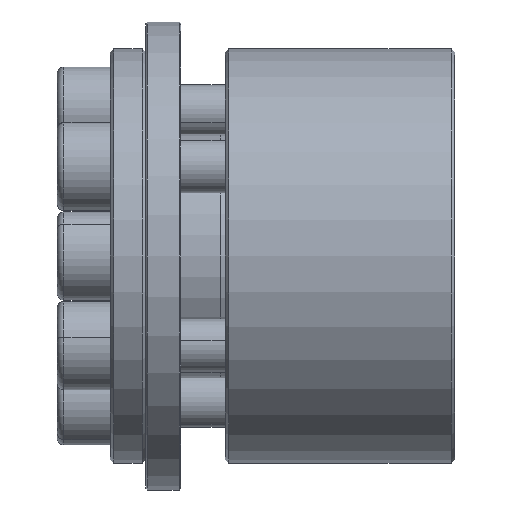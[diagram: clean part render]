
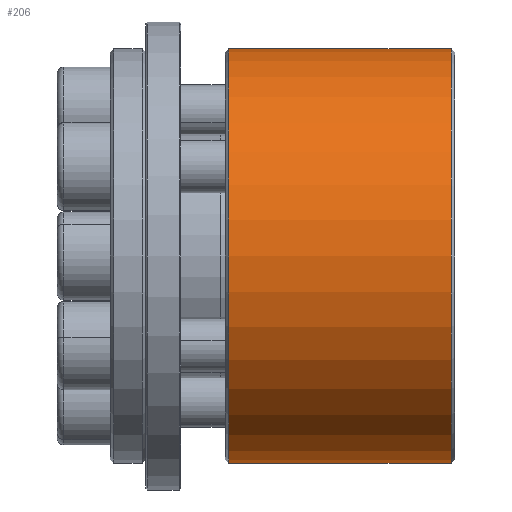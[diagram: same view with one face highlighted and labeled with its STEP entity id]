
A CAD part, front view. The second image highlights one B-rep face of the part: STEP entity #206.
In plain terms, the highlighted cylindrical face has radius 23.46 mm (diameter 46.92 mm), a partial arc.
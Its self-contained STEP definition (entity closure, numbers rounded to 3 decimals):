
#51 = ORIENTED_EDGE ( 'NONE', *, *, #1148, .T. ) ;
#206 = ADVANCED_FACE ( 'NONE', ( #5739 ), #1208, .T. ) ;
#216 = VERTEX_POINT ( 'NONE', #2702 ) ;
#1052 = DIRECTION ( 'NONE',  ( 0., 0., 1. ) ) ;
#1148 = EDGE_CURVE ( 'NONE', #6290, #4034, #5060, .T. ) ;
#1208 = CYLINDRICAL_SURFACE ( 'NONE', #3021, 23.46 ) ;
#1234 = VECTOR ( 'NONE', #6042, 1000. ) ;
#1318 = DIRECTION ( 'NONE',  ( 1., 0., 0. ) ) ;
#1373 = CARTESIAN_POINT ( 'NONE',  ( -92.366, 26.04, 0. ) ) ;
#1578 = CARTESIAN_POINT ( 'NONE',  ( -92.366, 26.04, 23.46 ) ) ;
#1618 = EDGE_CURVE ( 'NONE', #6290, #216, #6515, .T. ) ;
#1634 = ORIENTED_EDGE ( 'NONE', *, *, #1618, .F. ) ;
#1732 = LINE ( 'NONE', #3802, #4063 ) ;
#1932 = CARTESIAN_POINT ( 'NONE',  ( -67.166, 26.04, -23.46 ) ) ;
#2665 = DIRECTION ( 'NONE',  ( -1., 0., 0. ) ) ;
#2702 = CARTESIAN_POINT ( 'NONE',  ( -92.366, 26.04, -23.46 ) ) ;
#3015 = CARTESIAN_POINT ( 'NONE',  ( -92.766, 26.04, 0. ) ) ;
#3021 = AXIS2_PLACEMENT_3D ( 'NONE', #3015, #3692, #5017 ) ;
#3526 = ORIENTED_EDGE ( 'NONE', *, *, #6560, .T. ) ;
#3684 = VERTEX_POINT ( 'NONE', #1578 ) ;
#3692 = DIRECTION ( 'NONE',  ( -1., 0., 0. ) ) ;
#3802 = CARTESIAN_POINT ( 'NONE',  ( -92.766, 26.04, 23.46 ) ) ;
#3917 = AXIS2_PLACEMENT_3D ( 'NONE', #4462, #6018, #1052 ) ;
#3935 = DIRECTION ( 'NONE',  ( 0., 0., -1. ) ) ;
#4034 = VERTEX_POINT ( 'NONE', #5917 ) ;
#4063 = VECTOR ( 'NONE', #2665, 1000. ) ;
#4462 = CARTESIAN_POINT ( 'NONE',  ( -67.166, 26.04, 0. ) ) ;
#4983 = AXIS2_PLACEMENT_3D ( 'NONE', #1373, #1318, #3935 ) ;
#5017 = DIRECTION ( 'NONE',  ( 0., 0., 1. ) ) ;
#5045 = CARTESIAN_POINT ( 'NONE',  ( -92.766, 26.04, -23.46 ) ) ;
#5060 = CIRCLE ( 'NONE', #3917, 23.46 ) ;
#5094 = EDGE_CURVE ( 'NONE', #3684, #216, #5617, .T. ) ;
#5118 = EDGE_LOOP ( 'NONE', ( #1634, #51, #3526, #6138 ) ) ;
#5617 = CIRCLE ( 'NONE', #4983, 23.46 ) ;
#5739 = FACE_OUTER_BOUND ( 'NONE', #5118, .T. ) ;
#5917 = CARTESIAN_POINT ( 'NONE',  ( -67.166, 26.04, 23.46 ) ) ;
#6018 = DIRECTION ( 'NONE',  ( -1., 0., 0. ) ) ;
#6042 = DIRECTION ( 'NONE',  ( -1., 0., 0. ) ) ;
#6138 = ORIENTED_EDGE ( 'NONE', *, *, #5094, .T. ) ;
#6290 = VERTEX_POINT ( 'NONE', #1932 ) ;
#6515 = LINE ( 'NONE', #5045, #1234 ) ;
#6560 = EDGE_CURVE ( 'NONE', #4034, #3684, #1732, .T. ) ;
